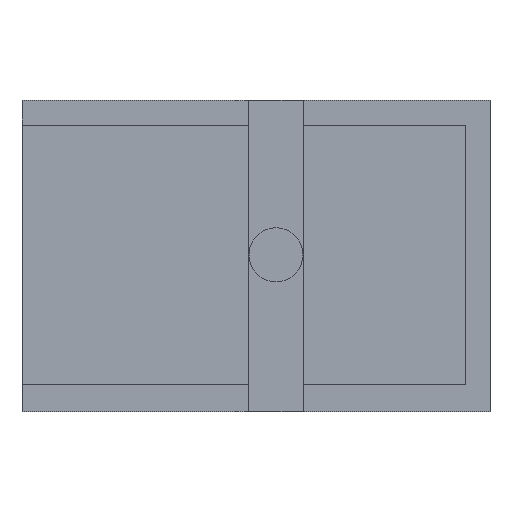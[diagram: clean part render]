
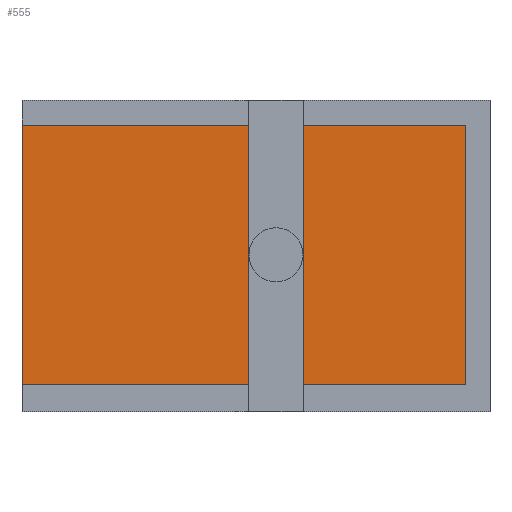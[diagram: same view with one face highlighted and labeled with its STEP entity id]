
A CAD part, top view. The second image highlights one B-rep face of the part: STEP entity #555.
In plain terms, the highlighted planar face has unit normal (0, 0, 1).
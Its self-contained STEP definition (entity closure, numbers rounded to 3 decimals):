
#40=FACE_OUTER_BOUND('',#75,.T.);
#75=EDGE_LOOP('',(#405,#406,#407,#408));
#106=LINE('',#807,#175);
#110=LINE('',#815,#179);
#113=LINE('',#821,#182);
#125=LINE('',#842,#194);
#175=VECTOR('',#651,10.);
#179=VECTOR('',#657,10.);
#182=VECTOR('',#662,10.);
#194=VECTOR('',#682,10.);
#244=VERTEX_POINT('',#805);
#245=VERTEX_POINT('',#806);
#248=VERTEX_POINT('',#814);
#250=VERTEX_POINT('',#820);
#294=EDGE_CURVE('',#244,#245,#106,.T.);
#298=EDGE_CURVE('',#245,#248,#110,.T.);
#301=EDGE_CURVE('',#248,#250,#113,.T.);
#313=EDGE_CURVE('',#250,#244,#125,.T.);
#405=ORIENTED_EDGE('',*,*,#313,.T.);
#406=ORIENTED_EDGE('',*,*,#294,.T.);
#407=ORIENTED_EDGE('',*,*,#298,.T.);
#408=ORIENTED_EDGE('',*,*,#301,.T.);
#523=PLANE('',#608);
#555=ADVANCED_FACE('',(#40),#523,.T.);
#608=AXIS2_PLACEMENT_3D('',#843,#683,#684);
#651=DIRECTION('',(1.,0.,0.));
#657=DIRECTION('',(0.,1.,0.));
#662=DIRECTION('',(-1.,0.,0.));
#682=DIRECTION('',(0.,-1.,0.));
#683=DIRECTION('center_axis',(0.,0.,1.));
#684=DIRECTION('ref_axis',(1.,0.,0.));
#805=CARTESIAN_POINT('',(0.,0.,1.3));
#806=CARTESIAN_POINT('',(42.,0.,1.3));
#807=CARTESIAN_POINT('',(0.,0.,1.3));
#814=CARTESIAN_POINT('',(42.,26.2,1.3));
#815=CARTESIAN_POINT('',(42.,0.,1.3));
#820=CARTESIAN_POINT('',(0.,26.2,1.3));
#821=CARTESIAN_POINT('',(42.,26.2,1.3));
#842=CARTESIAN_POINT('',(0.,26.2,1.3));
#843=CARTESIAN_POINT('Origin',(21.,13.1,1.3));
